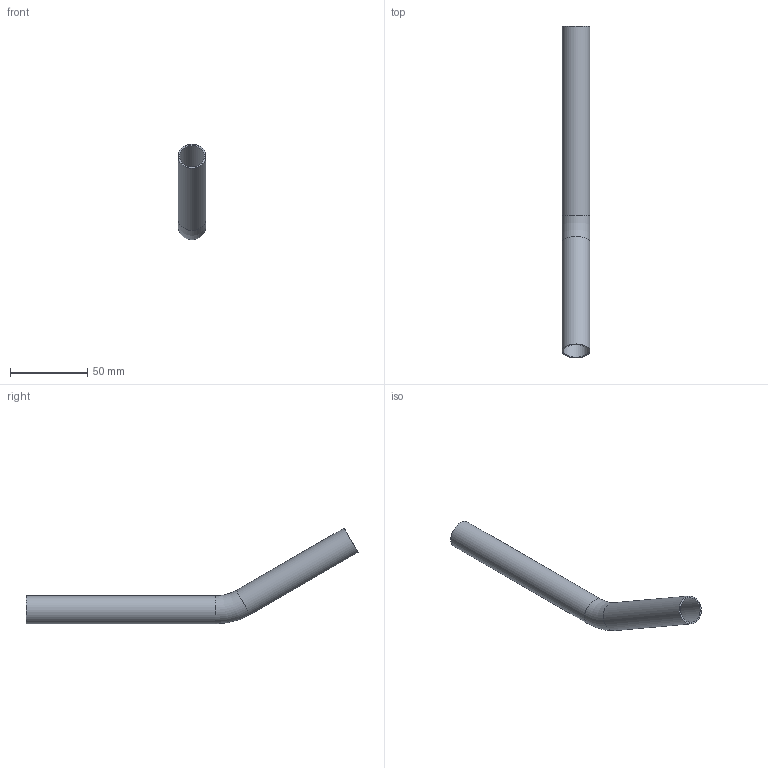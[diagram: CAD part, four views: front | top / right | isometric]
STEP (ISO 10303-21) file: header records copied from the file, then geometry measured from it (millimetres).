
FILE_DESCRIPTION(('STEP AP203'), '1');
FILE_NAME('ÂÐ.747111.007 - VTi.955.I.301818 Îòâîä 30 ãð. d18 (90õ132)', '', ('UNSPECIFIED'), ('UNSPECIFIED'), 'C3D Converter', 'C3D Toolkit', '');
FILE_SCHEMA(('CONFIG_CONTROL_DESIGN'));
Length unit declared in the file: millimetre
Products named in the file (1): ВР.747111.007
Bounding box: 18 x 214.44 x 61.79 mm (x, y, z)
Volume: 11832.7 mm3; surface area: 23772.3 mm2
Topology: 1 solids, 1 shells, 8 faces, 14 edges, 8 vertices
Faces by surface type: cylinder 4, torus 2, plane 2
Full cylindrical faces by diameter (mm): 16 x2, 18 x2
Entity records: 208 total; most frequent: DIRECTION 34, CARTESIAN_POINT 25, AXIS2_PLACEMENT_3D 17, EDGE_LOOP 16, ORIENTED_EDGE 16, FACE_OUTER_BOUND 12, ADVANCED_FACE 8, EDGE_CURVE 8
